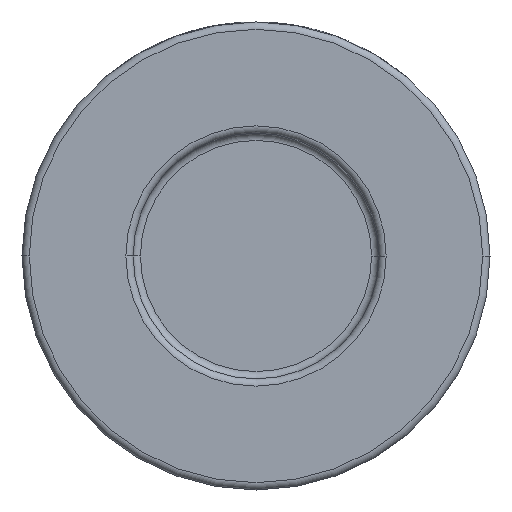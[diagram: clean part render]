
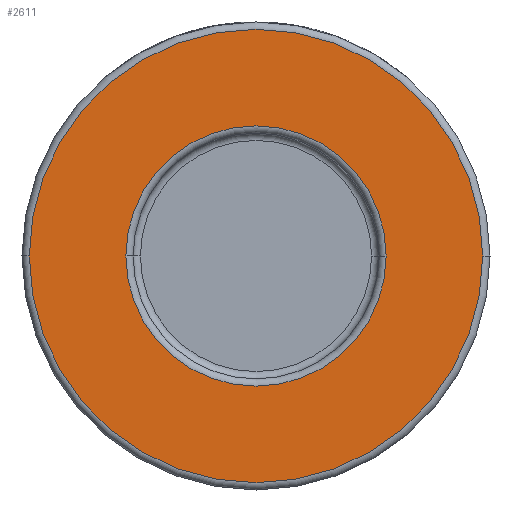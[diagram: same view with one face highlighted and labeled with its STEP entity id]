
A CAD part, front view. The second image highlights one B-rep face of the part: STEP entity #2611.
In plain terms, the highlighted planar face has unit normal (0, -1, 0).
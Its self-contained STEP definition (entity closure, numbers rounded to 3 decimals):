
#4 = DIRECTION ( 'NONE',  ( 0., -1., 0. ) ) ;
#31 = EDGE_CURVE ( 'NONE', #1741, #3454, #1430, .T. ) ;
#258 = AXIS2_PLACEMENT_3D ( 'NONE', #4491, #4, #1082 ) ;
#285 = DIRECTION ( 'NONE',  ( 0., 1., 0. ) ) ;
#437 = DIRECTION ( 'NONE',  ( 1., 0., 0. ) ) ;
#459 = CARTESIAN_POINT ( 'NONE',  ( 0., -21., 0. ) ) ;
#555 = AXIS2_PLACEMENT_3D ( 'NONE', #3811, #3166, #2450 ) ;
#662 = EDGE_LOOP ( 'NONE', ( #1021, #4051 ) ) ;
#685 = PLANE ( 'NONE',  #258 ) ;
#694 = CARTESIAN_POINT ( 'NONE',  ( -31., -21., 0. ) ) ;
#1021 = ORIENTED_EDGE ( 'NONE', *, *, #2336, .T. ) ;
#1056 = AXIS2_PLACEMENT_3D ( 'NONE', #459, #2585, #437 ) ;
#1082 = DIRECTION ( 'NONE',  ( 1., 0., 0. ) ) ;
#1430 = CIRCLE ( 'NONE', #1056, 31. ) ;
#1684 = CARTESIAN_POINT ( 'NONE',  ( 0., -21., 0. ) ) ;
#1741 = VERTEX_POINT ( 'NONE', #694 ) ;
#1818 = DIRECTION ( 'NONE',  ( 0., 1., 0. ) ) ;
#1841 = VERTEX_POINT ( 'NONE', #2580 ) ;
#2024 = AXIS2_PLACEMENT_3D ( 'NONE', #1684, #285, #3012 ) ;
#2108 = VERTEX_POINT ( 'NONE', #4069 ) ;
#2186 = DIRECTION ( 'NONE',  ( 1., 0., 0. ) ) ;
#2336 = EDGE_CURVE ( 'NONE', #3454, #1741, #3490, .T. ) ;
#2385 = ORIENTED_EDGE ( 'NONE', *, *, #3391, .T. ) ;
#2399 = CIRCLE ( 'NONE', #2024, 17.8 ) ;
#2450 = DIRECTION ( 'NONE',  ( 1., 0., 0. ) ) ;
#2497 = CARTESIAN_POINT ( 'NONE',  ( 31., -21., 0. ) ) ;
#2580 = CARTESIAN_POINT ( 'NONE',  ( 17.8, -21., 0. ) ) ;
#2585 = DIRECTION ( 'NONE',  ( 0., -1., 0. ) ) ;
#2611 = ADVANCED_FACE ( 'NONE', ( #3440, #2847 ), #685, .T. ) ;
#2847 = FACE_OUTER_BOUND ( 'NONE', #662, .T. ) ;
#3012 = DIRECTION ( 'NONE',  ( 1., 0., 0. ) ) ;
#3043 = EDGE_CURVE ( 'NONE', #2108, #1841, #3569, .T. ) ;
#3166 = DIRECTION ( 'NONE',  ( 0., -1., 0. ) ) ;
#3391 = EDGE_CURVE ( 'NONE', #1841, #2108, #2399, .T. ) ;
#3440 = FACE_BOUND ( 'NONE', #3790, .T. ) ;
#3454 = VERTEX_POINT ( 'NONE', #2497 ) ;
#3490 = CIRCLE ( 'NONE', #555, 31. ) ;
#3569 = CIRCLE ( 'NONE', #4161, 17.8 ) ;
#3592 = ORIENTED_EDGE ( 'NONE', *, *, #3043, .T. ) ;
#3790 = EDGE_LOOP ( 'NONE', ( #2385, #3592 ) ) ;
#3811 = CARTESIAN_POINT ( 'NONE',  ( 0., -21., 0. ) ) ;
#4051 = ORIENTED_EDGE ( 'NONE', *, *, #31, .T. ) ;
#4069 = CARTESIAN_POINT ( 'NONE',  ( -17.8, -21., 0. ) ) ;
#4161 = AXIS2_PLACEMENT_3D ( 'NONE', #4263, #1818, #2186 ) ;
#4263 = CARTESIAN_POINT ( 'NONE',  ( 0., -21., 0. ) ) ;
#4491 = CARTESIAN_POINT ( 'NONE',  ( 32., -21., 0. ) ) ;
